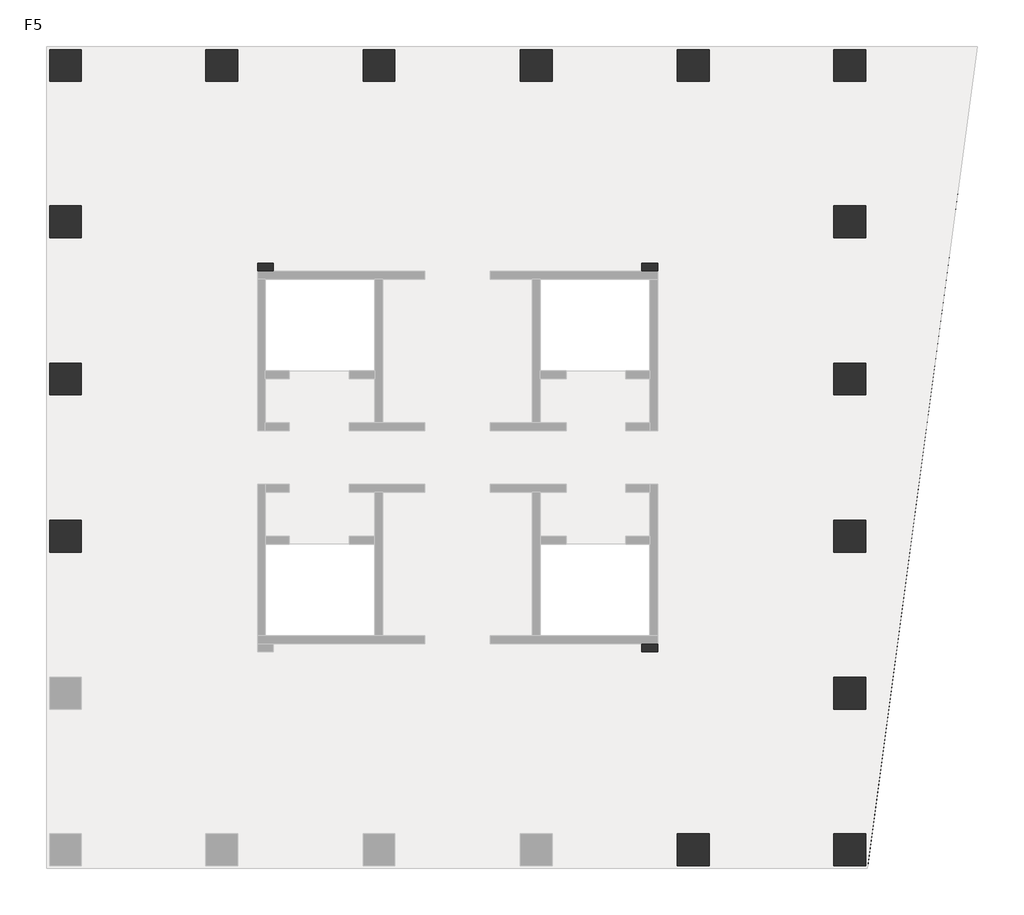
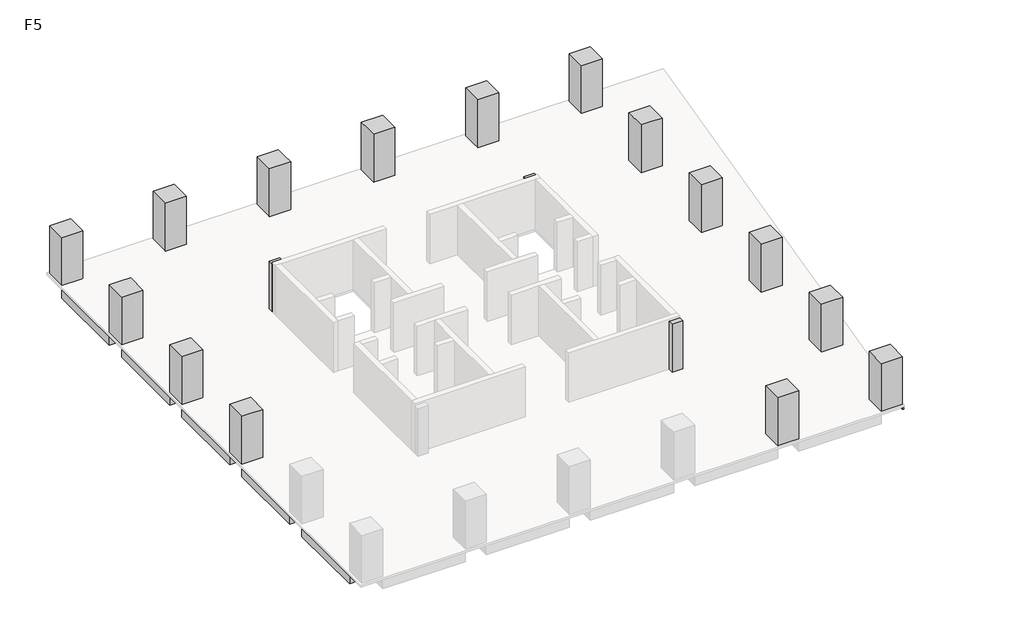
# One storey, part 2 of 2: 21 beams, 18 columns.
"""IFC4 building model written with IfcOpenShell, lengths in millimetres."""

from ifc_helpers import new_model, si_unit, frame, origin, place, context, project, spatial, polyline, outline, extrude, faceted_brep, element, save

model = new_model("IFC4")

# Units and contexts
model_context = context("Model", 3, world=origin())
ifc_project = project(units=[si_unit("LENGTHUNIT", "METRE", prefix="MILLI")], contexts=[model_context])

# Site, building, storey
site = spatial("IfcSite", under=ifc_project)
building = spatial("IfcBuilding", under=site)
storey = spatial("IfcBuildingStorey", under=building, Name="F5", Elevation=20000.0)

# Beams
placement = place(None, origin())
element("IfcBeam", 1, ObjectType="混凝土 - 矩形梁 : KL(5)-800x1000", at=placement, inside=storey, context=model_context, shape_type="SweptSolid", body=[
    extrude(outline(polyline([(25327.3257831, 27051.0498658), (25327.3257831, 26251.0498658), (19077.3257831, 26251.0498658), (19077.3257831, 27051.0498658), (25327.3257831, 27051.0498658)])), frame((0.0, 0.0, 19000.0), z_axis=(0.0, 0.0, 1.0), x_axis=(1.0, 0.0, 0.0)), (0.0, 0.0, 1.0), 840.0),
    extrude(outline(polyline([(-12472.6742169, 26251.0498658), (-12472.6742169, 27051.0498658), (-6222.6742169, 27051.0498658), (-6222.6742169, 26251.0498658), (-12472.6742169, 26251.0498658)])), frame((0.0, 0.0, 19000.0), z_axis=(0.0, 0.0, 1.0), x_axis=(1.0, 0.0, 0.0)), (0.0, 0.0, 1.0), 840.0),
    extrude(outline(polyline([(-4622.6742169, 26251.0498658), (-4622.6742169, 27051.0498658), (1677.3257831, 27051.0498658), (1677.3257831, 26251.0498658), (-4622.6742169, 26251.0498658)])), frame((0.0, 0.0, 19000.0), z_axis=(0.0, 0.0, 1.0), x_axis=(1.0, 0.0, 0.0)), (0.0, 0.0, 1.0), 840.0),
    extrude(outline(polyline([(3277.3257831, 26251.0498658), (3277.3257831, 27051.0498658), (9577.3257831, 27051.0498658), (9577.3257831, 26251.0498658), (3277.3257831, 26251.0498658)])), frame((0.0, 0.0, 19000.0), z_axis=(0.0, 0.0, 1.0), x_axis=(1.0, 0.0, 0.0)), (0.0, 0.0, 1.0), 840.0),
    extrude(outline(polyline([(11177.3257831, 26251.0498658), (11177.3257831, 27051.0498658), (17477.3257831, 27051.0498658), (17477.3257831, 26251.0498658), (11177.3257831, 26251.0498658)])), frame((0.0, 0.0, 19000.0), z_axis=(0.0, 0.0, 1.0), x_axis=(1.0, 0.0, 0.0)), (0.0, 0.0, 1.0), 840.0),
])
element("IfcBeam", 2, ObjectType="混凝土 - 矩形梁 : KL(5)-800x1000", at=placement, inside=storey, context=model_context, shape_type="Brep", body=[
    faceted_brep([(26927.3257831, 26251.0498658, 19000.0), (32422.0087099, 26251.0498658, 19000.0), (32422.0087099, 26251.0498658, 19840.0), (32018.4257091, 26251.0498658, 19840.0), (26927.3257831, 26251.0498658, 19840.0), (32422.0087099, 27051.0498658, 19000.0), (26927.3257831, 27051.0498658, 19000.0), (26927.3257831, 27051.0498658, 19840.0), (32422.0087099, 27051.0498658, 19840.0)], [[[0, 1, 2, 3, 4]], [[5, 1, 0, 6]], [[5, 6, 7, 8]], [[1, 5, 8, 2]], [[6, 0, 4, 7]], [[4, 3, 2, 8, 7]]]),
])
element("IfcBeam", 3, ObjectType="混凝土 - 矩形梁 : KL(5)-800x1000", at=placement, inside=storey, context=model_context, shape_type="Brep", body=[
    faceted_brep([(26127.3257831, -6098.9501342, 19000.0), (26127.3257831, -12348.9501342, 19000.0), (26127.3257831, -12348.9501342, 19840.0), (26127.3257831, -6098.9501342, 19840.0), (26927.3257831, -12348.9501342, 19000.0), (26927.3257831, -6098.9501342, 19000.0), (26927.3257831, -6098.9501342, 19840.0), (26927.3257831, -11700.7859463, 19840.0), (26927.3257831, -12348.9501342, 19840.0)], [[[0, 1, 2, 3]], [[4, 1, 0, 5]], [[4, 5, 6, 7, 8]], [[1, 4, 8, 2]], [[5, 0, 3, 6]], [[3, 2, 8, 7, 6]]]),
    faceted_brep([(26927.3257831, 25451.0498658, 19000.0), (26127.3257831, 25451.0498658, 19000.0), (26127.3257831, 25451.0498658, 19840.0), (26927.3257831, 25451.0498658, 19840.0), (26127.3257831, 19201.0498658, 19000.0), (26927.3257831, 19201.0498658, 19000.0), (26927.3257831, 19201.0498658, 19840.0), (26127.3257831, 19201.0498658, 19840.0)], [[[0, 1, 2, 3]], [[4, 5, 6, 7]], [[1, 4, 7, 2]], [[1, 0, 5, 4]], [[5, 0, 3, 6]], [[3, 2, 7, 6]]]),
    faceted_brep([(26927.3257831, 17601.0498658, 19000.0), (26127.3257831, 17601.0498658, 19000.0), (26127.3257831, 17601.0498658, 19840.0), (26927.3257831, 17601.0498658, 19840.0), (26127.3257831, 11301.0498658, 19000.0), (26927.3257831, 11301.0498658, 19000.0), (26927.3257831, 11301.0498658, 19840.0), (26127.3257831, 11301.0498658, 19840.0)], [[[0, 1, 2, 3]], [[4, 5, 6, 7]], [[1, 4, 7, 2]], [[1, 0, 5, 4]], [[5, 0, 3, 6]], [[3, 2, 7, 6]]]),
    faceted_brep([(26927.3257831, 9701.0498658, 19000.0), (26127.3257831, 9701.0498658, 19000.0), (26127.3257831, 9701.0498658, 19840.0), (26927.3257831, 9701.0498658, 19840.0), (26127.3257831, 3401.0498658, 19000.0), (26927.3257831, 3401.0498658, 19000.0), (26927.3257831, 3401.0498658, 19840.0), (26127.3257831, 3401.0498658, 19840.0)], [[[0, 1, 2, 3]], [[4, 5, 6, 7]], [[1, 4, 7, 2]], [[1, 0, 5, 4]], [[5, 0, 3, 6]], [[3, 2, 7, 6]]]),
    faceted_brep([(26927.3257831, 1801.0498658, 19000.0), (26127.3257831, 1801.0498658, 19000.0), (26127.3257831, 1801.0498658, 19840.0), (26927.3257831, 1801.0498658, 19840.0), (26127.3257831, -4498.9501342, 19000.0), (26927.3257831, -4498.9501342, 19000.0), (26927.3257831, -4498.9501342, 19840.0), (26127.3257831, -4498.9501342, 19840.0)], [[[0, 1, 2, 3]], [[4, 5, 6, 7]], [[1, 4, 7, 2]], [[1, 0, 5, 4]], [[5, 0, 3, 6]], [[3, 2, 7, 6]]]),
])
element("IfcBeam", 4, ObjectType="混凝土 - 矩形梁 : KL(5)-800x1000", at=placement, inside=storey, context=model_context, shape_type="SweptSolid", body=[
    extrude(outline(polyline([(-14072.6742169, 25451.0498658), (-13272.6742169, 25451.0498658), (-13272.6742169, 19201.0498658), (-14072.6742169, 19201.0498658), (-14072.6742169, 25451.0498658)])), frame((0.0, 0.0, 19000.0), z_axis=(0.0, 0.0, 1.0), x_axis=(1.0, 0.0, 0.0)), (0.0, 0.0, 1.0), 840.0),
    extrude(outline(polyline([(-13272.6742169, -12348.9501342), (-14072.6742169, -12348.9501342), (-14072.6742169, -6098.9501342), (-13272.6742169, -6098.9501342), (-13272.6742169, -12348.9501342)])), frame((0.0, 0.0, 19000.0), z_axis=(0.0, 0.0, 1.0), x_axis=(1.0, 0.0, 0.0)), (0.0, 0.0, 1.0), 840.0),
    extrude(outline(polyline([(-14072.6742169, 17601.0498658), (-13272.6742169, 17601.0498658), (-13272.6742169, 11301.0498658), (-14072.6742169, 11301.0498658), (-14072.6742169, 17601.0498658)])), frame((0.0, 0.0, 19000.0), z_axis=(0.0, 0.0, 1.0), x_axis=(1.0, 0.0, 0.0)), (0.0, 0.0, 1.0), 840.0),
    extrude(outline(polyline([(-14072.6742169, 9701.0498658), (-13272.6742169, 9701.0498658), (-13272.6742169, 3401.0498658), (-14072.6742169, 3401.0498658), (-14072.6742169, 9701.0498658)])), frame((0.0, 0.0, 19000.0), z_axis=(0.0, 0.0, 1.0), x_axis=(1.0, 0.0, 0.0)), (0.0, 0.0, 1.0), 840.0),
    extrude(outline(polyline([(-14072.6742169, 1801.0498658), (-13272.6742169, 1801.0498658), (-13272.6742169, -4498.9501342), (-14072.6742169, -4498.9501342), (-14072.6742169, 1801.0498658)])), frame((0.0, 0.0, 19000.0), z_axis=(0.0, 0.0, 1.0), x_axis=(1.0, 0.0, 0.0)), (0.0, 0.0, 1.0), 840.0),
])
element("IfcBeam", 5, ObjectType="混凝土 - 矩形梁 : L1-800x500", at=placement, inside=storey, context=model_context, shape_type="SweptSolid", body=[
    extrude(outline(polyline([(-12472.6742169, 2201.0498658), (-12472.6742169, 3001.0498658), (-3622.6742169, 3001.0498658), (-3622.6742169, 2201.0498658), (-12472.6742169, 2201.0498658)])), frame((0.0, 0.0, 19500.0), z_axis=(0.0, 0.0, 1.0), x_axis=(1.0, 0.0, 0.0)), (0.0, 0.0, 1.0), 340.0),
])
element("IfcBeam", 6, ObjectType="混凝土 - 矩形梁 : L1-800x500", at=placement, inside=storey, context=model_context, shape_type="SweptSolid", body=[
    extrude(outline(polyline([(-12472.6742169, 10101.0498658), (-12472.6742169, 10901.0498658), (-3622.6742169, 10901.0498658), (-3622.6742169, 10101.0498658), (-12472.6742169, 10101.0498658)])), frame((0.0, 0.0, 19500.0), z_axis=(0.0, 0.0, 1.0), x_axis=(1.0, 0.0, 0.0)), (0.0, 0.0, 1.0), 340.0),
])
element("IfcBeam", 7, ObjectType="混凝土 - 矩形梁 : L1-800x500", at=placement, inside=storey, context=model_context, shape_type="Brep", body=[
    faceted_brep([(-12472.6742169, 17789.85471, 19500.0), (-3622.6742169, 15588.3621727, 19500.0), (-3622.6742169, 15588.3621727, 19840.0), (-12472.6742169, 17789.85471, 19840.0), (-3173.6696907, 16301.0498658, 19500.0), (-3622.6742169, 16301.0498658, 19500.0), (-3622.6742169, 15901.0498658, 19500.0), (-12472.6742169, 18614.2350714, 19500.0), (-3746.9473979, 16443.6562607, 19500.0), (-12472.6742169, 18614.2350714, 19840.0), (-3746.9473979, 16443.6562607, 19840.0), (-3173.6696907, 16301.0498658, 19840.0), (-3622.6742169, 16301.0498658, 19840.0)], [[[0, 1, 2, 3]], [[4, 5, 6, 1, 0, 7, 8]], [[4, 8, 7, 9, 10, 11]], [[6, 5, 12, 2, 1]], [[5, 4, 11, 12]], [[7, 0, 3, 9]], [[3, 2, 12, 11, 10, 9]]]),
])
element("IfcBeam", 8, ObjectType="混凝土 - 矩形梁 : L1-800x500", at=placement, inside=storey, context=model_context, shape_type="SweptSolid", body=[
    extrude(outline(polyline([(-3173.6696907, 16301.0498658), (-3746.9473979, 16443.6562607), (-5661.5624638, 25451.0498658), (-4843.6893517, 25451.0498658), (-2898.7618154, 16301.0498658), (-3173.6696907, 16301.0498658)])), frame((0.0, 0.0, 19500.0), z_axis=(0.0, 0.0, 1.0), x_axis=(1.0, 0.0, 0.0)), (0.0, 0.0, 1.0), 340.0),
])
element("IfcBeam", 9, ObjectType="混凝土 - 矩形梁 : L1-800x500", at=placement, inside=storey, context=model_context, shape_type="SweptSolid", body=[
    extrude(outline(polyline([(2077.3257831, 25451.0498658), (2877.3257831, 25451.0498658), (2877.3257831, 15901.0498658), (2077.3257831, 15901.0498658), (2077.3257831, 25451.0498658)])), frame((0.0, 0.0, 19500.0), z_axis=(0.0, 0.0, 1.0), x_axis=(1.0, 0.0, 0.0)), (0.0, 0.0, 1.0), 340.0),
])
element("IfcBeam", 10, ObjectType="混凝土 - 矩形梁 : L1-800x500", at=placement, inside=storey, context=model_context, shape_type="SweptSolid", body=[
    extrude(outline(polyline([(9977.3257831, 25451.0498658), (10777.3257831, 25451.0498658), (10777.3257831, 15901.0498658), (9977.3257831, 15901.0498658), (9977.3257831, 25451.0498658)])), frame((0.0, 0.0, 19500.0), z_axis=(0.0, 0.0, 1.0), x_axis=(1.0, 0.0, 0.0)), (0.0, 0.0, 1.0), 340.0),
])
element("IfcBeam", 11, ObjectType="混凝土 - 矩形梁 : L1-800x500", at=placement, inside=storey, context=model_context, shape_type="Brep", body=[
    faceted_brep([(25327.3257831, -4687.7549784, 19500.0), (16477.3257831, -2486.2624411, 19500.0), (16477.3257831, -2486.2624411, 19840.0), (25327.3257831, -4687.7549784, 19840.0), (16028.3212569, -3198.9501342, 19500.0), (16477.3257831, -3198.9501342, 19500.0), (16477.3257831, -2798.9501342, 19500.0), (25327.3257831, -5512.1353397, 19500.0), (16601.5989641, -3341.556529, 19500.0), (25327.3257831, -5512.1353397, 19840.0), (16601.5989641, -3341.556529, 19840.0), (16028.3212569, -3198.9501342, 19840.0), (16477.3257831, -3198.9501342, 19840.0)], [[[0, 1, 2, 3]], [[4, 5, 6, 1, 0, 7, 8]], [[4, 8, 7, 9, 10, 11]], [[6, 5, 12, 2, 1]], [[5, 4, 11, 12]], [[7, 0, 3, 9]], [[3, 2, 12, 11, 10, 9]]]),
])
element("IfcBeam", 12, ObjectType="混凝土 - 矩形梁 : L1-800x500", at=placement, inside=storey, context=model_context, shape_type="SweptSolid", body=[
    extrude(outline(polyline([(16028.3212569, -3198.9501342), (16601.5989641, -3341.556529), (18516.21403, -12348.9501342), (17698.3409179, -12348.9501342), (15753.4133817, -3198.9501342), (16028.3212569, -3198.9501342)])), frame((0.0, 0.0, 19500.0), z_axis=(0.0, 0.0, 1.0), x_axis=(1.0, 0.0, 0.0)), (0.0, 0.0, 1.0), 340.0),
])
element("IfcBeam", 13, ObjectType="混凝土 - 矩形梁 : L1-800x500", at=placement, inside=storey, context=model_context, shape_type="SweptSolid", body=[
    extrude(outline(polyline([(25327.3257831, 3001.0498658), (25327.3257831, 2201.0498658), (16477.3257831, 2201.0498658), (16477.3257831, 3001.0498658), (25327.3257831, 3001.0498658)])), frame((0.0, 0.0, 19500.0), z_axis=(0.0, 0.0, 1.0), x_axis=(1.0, 0.0, 0.0)), (0.0, 0.0, 1.0), 340.0),
])
element("IfcBeam", 14, ObjectType="混凝土 - 矩形梁 : L1-800x500", at=placement, inside=storey, context=model_context, shape_type="SweptSolid", body=[
    extrude(outline(polyline([(25327.3257831, 10901.0498658), (25327.3257831, 10101.0498658), (16477.3257831, 10101.0498658), (16477.3257831, 10901.0498658), (25327.3257831, 10901.0498658)])), frame((0.0, 0.0, 19500.0), z_axis=(0.0, 0.0, 1.0), x_axis=(1.0, 0.0, 0.0)), (0.0, 0.0, 1.0), 340.0),
])
element("IfcBeam", 15, ObjectType="混凝土 - 矩形梁 : L1-800x500", at=placement, inside=storey, context=model_context, shape_type="Brep", body=[
    faceted_brep([(25327.3257831, 18610.6867312, 19500.0), (16590.8993897, 16393.3196262, 19500.0), (16227.3565337, 16301.0498658, 19500.0), (16227.3565337, 16301.0498658, 19840.0), (16590.8993897, 16393.3196262, 19840.0), (25327.3257831, 18610.6867312, 19840.0), (16477.3257831, 16301.0498658, 19500.0), (25327.3257831, 17785.3216299, 19500.0), (16477.3257831, 15539.1287365, 19500.0), (16477.3257831, 15901.0498658, 19500.0), (25327.3257831, 17785.3216299, 19840.0), (16477.3257831, 15539.1287365, 19840.0), (16477.3257831, 16301.0498658, 19840.0)], [[[0, 1, 2, 3, 4, 5]], [[6, 2, 1, 0, 7, 8, 9]], [[8, 7, 10, 11]], [[9, 8, 11, 12, 6]], [[2, 6, 12, 3]], [[7, 0, 5, 10]], [[5, 4, 3, 12, 11, 10]]]),
])
element("IfcBeam", 16, ObjectType="混凝土 - 矩形梁 : L1-800x500", at=placement, inside=storey, context=model_context, shape_type="SweptSolid", body=[
    extrude(outline(polyline([(16590.8993897, 16393.3196262), (16227.3565337, 16301.0498658), (15753.4133817, 16301.0498658), (17698.3409179, 25451.0498658), (18516.21403, 25451.0498658), (16590.8993897, 16393.3196262)])), frame((0.0, 0.0, 19500.0), z_axis=(0.0, 0.0, 1.0), x_axis=(1.0, 0.0, 0.0)), (0.0, 0.0, 1.0), 340.0),
])
element("IfcBeam", 17, ObjectType="混凝土 - 矩形梁 : L2-400x400", at=placement, inside=storey, context=model_context, shape_type="Brep", body=[
    faceted_brep([(32422.0087099, 26251.0498658, 19600.0), (27029.3257831, -13948.9501342, 19600.0), (26927.3257831, -13935.2672073, 19600.0), (26927.3257831, -11700.7859463, 19600.0), (27759.2793677, -5498.9501342, 19600.0), (27812.9379042, -5098.9501342, 19600.0), (28819.0354652, 2401.0498658, 19600.0), (28872.6940018, 2801.0498658, 19600.0), (29878.7915628, 10301.0498658, 19600.0), (29932.4500994, 10701.0498658, 19600.0), (30938.5476603, 18201.0498658, 19600.0), (30992.2061969, 18601.0498658, 19600.0), (32018.4257091, 26251.0498658, 19600.0), (32422.0087099, 26251.0498658, 19840.0), (27029.3257831, -13948.9501342, 19840.0), (32018.4257091, 26251.0498658, 19840.0), (26927.3257831, -13935.2672073, 19840.0), (26927.3257831, -12348.9501342, 19840.0), (26927.3257831, -11700.7859463, 19840.0), (27759.2793677, -5498.9501342, 19840.0), (27812.9379042, -5098.9501342, 19840.0), (28819.0354652, 2401.0498658, 19840.0), (28872.6940018, 2801.0498658, 19840.0), (29878.7915628, 10301.0498658, 19840.0), (29932.4500994, 10701.0498658, 19840.0), (30938.5476603, 18201.0498658, 19840.0), (30992.2061969, 18601.0498658, 19840.0)], [[[0, 1, 2, 3, 4, 5, 6, 7, 8, 9, 10, 11, 12]], [[1, 0, 13, 14]], [[0, 12, 15, 13]], [[3, 2, 16, 17, 18]], [[12, 11, 10, 9, 8, 7, 6, 5, 4, 3, 18, 19, 20, 21, 22, 23, 24, 25, 26, 15]], [[2, 1, 14, 16]], [[14, 13, 15, 26, 25, 24, 23, 22, 21, 20, 19, 18, 17, 16]]]),
])
element("IfcBeam", 18, ObjectType="混凝土 - 矩形梁 : L2-400x400", at=placement, inside=storey, context=model_context, shape_type="SweptSolid", body=[
    extrude(outline(polyline([(30938.5476603, 18201.0498658), (26927.3257831, 18201.0498658), (26927.3257831, 18601.0498658), (30992.2061969, 18601.0498658), (30938.5476603, 18201.0498658)])), frame((0.0, 0.0, 19600.0), z_axis=(0.0, 0.0, 1.0), x_axis=(1.0, 0.0, 0.0)), (0.0, 0.0, 1.0), 240.0),
])
element("IfcBeam", 19, ObjectType="混凝土 - 矩形梁 : L2-400x400", at=placement, inside=storey, context=model_context, shape_type="SweptSolid", body=[
    extrude(outline(polyline([(29878.7915628, 10301.0498658), (26927.3257831, 10301.0498658), (26927.3257831, 10701.0498658), (29932.4500994, 10701.0498658), (29878.7915628, 10301.0498658)])), frame((0.0, 0.0, 19600.0), z_axis=(0.0, 0.0, 1.0), x_axis=(1.0, 0.0, 0.0)), (0.0, 0.0, 1.0), 240.0),
])
element("IfcBeam", 20, ObjectType="混凝土 - 矩形梁 : L2-400x400", at=placement, inside=storey, context=model_context, shape_type="SweptSolid", body=[
    extrude(outline(polyline([(28819.0354652, 2401.0498658), (26927.3257831, 2401.0498658), (26927.3257831, 2801.0498658), (28872.6940018, 2801.0498658), (28819.0354652, 2401.0498658)])), frame((0.0, 0.0, 19600.0), z_axis=(0.0, 0.0, 1.0), x_axis=(1.0, 0.0, 0.0)), (0.0, 0.0, 1.0), 240.0),
])
element("IfcBeam", 21, ObjectType="混凝土 - 矩形梁 : L2-400x400", at=placement, inside=storey, context=model_context, shape_type="SweptSolid", body=[
    extrude(outline(polyline([(27759.2793677, -5498.9501342), (26927.3257831, -5498.9501342), (26927.3257831, -5098.9501342), (27812.9379042, -5098.9501342), (27759.2793677, -5498.9501342)])), frame((0.0, 0.0, 19600.0), z_axis=(0.0, 0.0, 1.0), x_axis=(1.0, 0.0, 0.0)), (0.0, 0.0, 1.0), 240.0),
])

# Columns
element("IfcColumn", 22, ObjectType="混凝土 - 矩形 - 柱 : Z1-1600x1600", at=placement, inside=storey, context=model_context, shape_type="SweptSolid", body=[
    extrude(outline(polyline([(-12472.6742169, 27051.0498658), (-12472.6742169, 25451.0498658), (-14072.6742169, 25451.0498658), (-14072.6742169, 27051.0498658), (-12472.6742169, 27051.0498658)])), frame((0.0, 0.0, 20000.0), z_axis=(0.0, 0.0, 1.0), x_axis=(1.0, 0.0, 0.0)), (0.0, 0.0, 1.0), 3840.0),
])
element("IfcColumn", 23, ObjectType="混凝土 - 矩形 - 柱 : Z1-1600x1600", at=placement, inside=storey, context=model_context, shape_type="Brep", body=[
    faceted_brep([(-4622.6742169, 27051.0498658, 20000.0), (-4622.6742169, 25451.0498658, 20000.0), (-6222.6742169, 25451.0498658, 20000.0), (-6222.6742169, 27051.0498658, 20000.0), (-4622.6742169, 27051.0498658, 23000.0), (-4622.6742169, 27051.0498658, 23840.0), (-4622.6742169, 26251.0498658, 23840.0), (-4622.6742169, 25451.0498658, 23840.0), (-6222.6742169, 25451.0498658, 23840.0), (-6222.6742169, 26251.0498658, 23840.0), (-6222.6742169, 27051.0498658, 23840.0), (-6222.6742169, 27051.0498658, 23000.0)], [[[0, 1, 2, 3]], [[1, 0, 4, 5, 6, 7]], [[2, 1, 7, 8]], [[3, 2, 8, 9, 10, 11]], [[0, 3, 11, 10, 5, 4]], [[7, 6, 5, 10, 9, 8]]]),
])
element("IfcColumn", 24, ObjectType="混凝土 - 矩形 - 柱 : Z1-1600x1600", at=placement, inside=storey, context=model_context, shape_type="Brep", body=[
    faceted_brep([(-12472.6742169, 19201.0498658, 20000.0), (-12472.6742169, 17601.0498658, 20000.0), (-14072.6742169, 17601.0498658, 20000.0), (-14072.6742169, 19201.0498658, 20000.0), (-12472.6742169, 19201.0498658, 23840.0), (-12472.6742169, 17601.0498658, 23840.0), (-13272.6742169, 17601.0498658, 23840.0), (-14072.6742169, 17601.0498658, 23840.0), (-14072.6742169, 17601.0498658, 23000.0), (-14072.6742169, 19201.0498658, 23840.0), (-14072.6742169, 19201.0498658, 23000.0), (-13272.6742169, 19201.0498658, 23840.0)], [[[0, 1, 2, 3]], [[1, 0, 4, 5]], [[2, 1, 5, 6, 7, 8]], [[3, 2, 8, 7, 9, 10]], [[0, 3, 10, 9, 11, 4]], [[5, 4, 11, 9, 7, 6]]]),
])
element("IfcColumn", 25, ObjectType="混凝土 - 矩形 - 柱 : Z1-1600x1600", at=placement, inside=storey, context=model_context, shape_type="Brep", body=[
    faceted_brep([(-12472.6742169, 11301.0498658, 20000.0), (-12472.6742169, 9701.0498658, 20000.0), (-14072.6742169, 9701.0498658, 20000.0), (-14072.6742169, 11301.0498658, 20000.0), (-12472.6742169, 11301.0498658, 23840.0), (-12472.6742169, 9701.0498658, 23840.0), (-13272.6742169, 9701.0498658, 23840.0), (-14072.6742169, 9701.0498658, 23840.0), (-14072.6742169, 9701.0498658, 23000.0), (-14072.6742169, 11301.0498658, 23840.0), (-14072.6742169, 11301.0498658, 23000.0), (-13272.6742169, 11301.0498658, 23840.0)], [[[0, 1, 2, 3]], [[1, 0, 4, 5]], [[2, 1, 5, 6, 7, 8]], [[3, 2, 8, 7, 9, 10]], [[0, 3, 10, 9, 11, 4]], [[5, 4, 11, 9, 7, 6]]]),
])
element("IfcColumn", 26, ObjectType="混凝土 - 矩形 - 柱 : Z1-1600x1600", at=placement, inside=storey, context=model_context, shape_type="Brep", body=[
    faceted_brep([(-12472.6742169, 3401.0498658, 20000.0), (-12472.6742169, 1801.0498658, 20000.0), (-14072.6742169, 1801.0498658, 20000.0), (-14072.6742169, 3401.0498658, 20000.0), (-12472.6742169, 3401.0498658, 23840.0), (-12472.6742169, 1801.0498658, 23840.0), (-13272.6742169, 1801.0498658, 23840.0), (-14072.6742169, 1801.0498658, 23840.0), (-14072.6742169, 1801.0498658, 23000.0), (-14072.6742169, 3401.0498658, 23840.0), (-14072.6742169, 3401.0498658, 23000.0), (-13272.6742169, 3401.0498658, 23840.0)], [[[0, 1, 2, 3]], [[1, 0, 4, 5]], [[2, 1, 5, 6, 7, 8]], [[3, 2, 8, 7, 9, 10]], [[0, 3, 10, 9, 11, 4]], [[5, 4, 11, 9, 7, 6]]]),
])
element("IfcColumn", 27, ObjectType="混凝土 - 矩形 - 柱 : Z1-1600x1600", at=placement, inside=storey, context=model_context, shape_type="SweptSolid", body=[
    extrude(outline(polyline([(25327.3257831, 27051.0498658), (26927.3257831, 27051.0498658), (26927.3257831, 25451.0498658), (25327.3257831, 25451.0498658), (25327.3257831, 27051.0498658)])), frame((0.0, 0.0, 20000.0), z_axis=(0.0, 0.0, 1.0), x_axis=(1.0, 0.0, 0.0)), (0.0, 0.0, 1.0), 3840.0),
])
element("IfcColumn", 28, ObjectType="混凝土 - 矩形 - 柱 : Z1-1600x1600", at=placement, inside=storey, context=model_context, shape_type="Brep", body=[
    faceted_brep([(25327.3257831, 19201.0498658, 20000.0), (26927.3257831, 19201.0498658, 20000.0), (26927.3257831, 17601.0498658, 20000.0), (25327.3257831, 17601.0498658, 20000.0), (25327.3257831, 17601.0498658, 23840.0), (25327.3257831, 19201.0498658, 23840.0), (26927.3257831, 17601.0498658, 23000.0), (26927.3257831, 17601.0498658, 23840.0), (26127.3257831, 17601.0498658, 23840.0), (26927.3257831, 19201.0498658, 23000.0), (26927.3257831, 19201.0498658, 23840.0), (26127.3257831, 19201.0498658, 23840.0)], [[[0, 1, 2, 3]], [[0, 3, 4, 5]], [[3, 2, 6, 7, 8, 4]], [[2, 1, 9, 10, 7, 6]], [[1, 0, 5, 11, 10, 9]], [[5, 4, 8, 7, 10, 11]]]),
])
element("IfcColumn", 29, ObjectType="混凝土 - 矩形 - 柱 : Z1-1600x1600", at=placement, inside=storey, context=model_context, shape_type="Brep", body=[
    faceted_brep([(25327.3257831, 11301.0498658, 20000.0), (26927.3257831, 11301.0498658, 20000.0), (26927.3257831, 9701.0498658, 20000.0), (25327.3257831, 9701.0498658, 20000.0), (25327.3257831, 9701.0498658, 23840.0), (25327.3257831, 11301.0498658, 23840.0), (26927.3257831, 9701.0498658, 23000.0), (26927.3257831, 9701.0498658, 23840.0), (26127.3257831, 9701.0498658, 23840.0), (26927.3257831, 11301.0498658, 23000.0), (26927.3257831, 11301.0498658, 23840.0), (26127.3257831, 11301.0498658, 23840.0)], [[[0, 1, 2, 3]], [[0, 3, 4, 5]], [[3, 2, 6, 7, 8, 4]], [[2, 1, 9, 10, 7, 6]], [[1, 0, 5, 11, 10, 9]], [[5, 4, 8, 7, 10, 11]]]),
])
element("IfcColumn", 30, ObjectType="混凝土 - 矩形 - 柱 : Z1-1600x1600", at=placement, inside=storey, context=model_context, shape_type="Brep", body=[
    faceted_brep([(25327.3257831, 3401.0498658, 20000.0), (26927.3257831, 3401.0498658, 20000.0), (26927.3257831, 1801.0498658, 20000.0), (25327.3257831, 1801.0498658, 20000.0), (25327.3257831, 1801.0498658, 23840.0), (25327.3257831, 3401.0498658, 23840.0), (26927.3257831, 1801.0498658, 23000.0), (26927.3257831, 1801.0498658, 23840.0), (26127.3257831, 1801.0498658, 23840.0), (26927.3257831, 3401.0498658, 23000.0), (26927.3257831, 3401.0498658, 23840.0), (26127.3257831, 3401.0498658, 23840.0)], [[[0, 1, 2, 3]], [[0, 3, 4, 5]], [[3, 2, 6, 7, 8, 4]], [[2, 1, 9, 10, 7, 6]], [[1, 0, 5, 11, 10, 9]], [[5, 4, 8, 7, 10, 11]]]),
])
element("IfcColumn", 31, ObjectType="混凝土 - 矩形 - 柱 : Z1-1600x1600", at=placement, inside=storey, context=model_context, shape_type="Brep", body=[
    faceted_brep([(25327.3257831, -4498.9501342, 20000.0), (26927.3257831, -4498.9501342, 20000.0), (26927.3257831, -6098.9501342, 20000.0), (25327.3257831, -6098.9501342, 20000.0), (25327.3257831, -6098.9501342, 23840.0), (25327.3257831, -4498.9501342, 23840.0), (26927.3257831, -6098.9501342, 23000.0), (26927.3257831, -6098.9501342, 23840.0), (26127.3257831, -6098.9501342, 23840.0), (26927.3257831, -4498.9501342, 23000.0), (26927.3257831, -4498.9501342, 23840.0), (26127.3257831, -4498.9501342, 23840.0)], [[[0, 1, 2, 3]], [[0, 3, 4, 5]], [[3, 2, 6, 7, 8, 4]], [[2, 1, 9, 10, 7, 6]], [[1, 0, 5, 11, 10, 9]], [[5, 4, 8, 7, 10, 11]]]),
])
element("IfcColumn", 32, ObjectType="混凝土 - 矩形 - 柱 : Z1-1600x1600", at=placement, inside=storey, context=model_context, shape_type="SweptSolid", body=[
    extrude(outline(polyline([(25327.3257831, -12348.9501342), (26927.3257831, -12348.9501342), (26927.3257831, -13948.9501342), (25327.3257831, -13948.9501342), (25327.3257831, -12348.9501342)])), frame((0.0, 0.0, 20000.0), z_axis=(0.0, 0.0, 1.0), x_axis=(1.0, 0.0, 0.0)), (0.0, 0.0, 1.0), 3840.0),
])
element("IfcColumn", 33, ObjectType="混凝土 - 矩形 - 柱 : Z1-1600x1600", at=placement, inside=storey, context=model_context, shape_type="Brep", body=[
    faceted_brep([(3277.3257831, 27051.0498658, 20000.0), (3277.3257831, 25451.0498658, 20000.0), (1677.3257831, 25451.0498658, 20000.0), (1677.3257831, 27051.0498658, 20000.0), (3277.3257831, 27051.0498658, 23000.0), (3277.3257831, 27051.0498658, 23840.0), (3277.3257831, 26251.0498658, 23840.0), (3277.3257831, 25451.0498658, 23840.0), (1677.3257831, 25451.0498658, 23840.0), (1677.3257831, 26251.0498658, 23840.0), (1677.3257831, 27051.0498658, 23840.0), (1677.3257831, 27051.0498658, 23000.0)], [[[0, 1, 2, 3]], [[1, 0, 4, 5, 6, 7]], [[2, 1, 7, 8]], [[3, 2, 8, 9, 10, 11]], [[0, 3, 11, 10, 5, 4]], [[7, 6, 5, 10, 9, 8]]]),
])
element("IfcColumn", 34, ObjectType="混凝土 - 矩形 - 柱 : Z1-1600x1600", at=placement, inside=storey, context=model_context, shape_type="Brep", body=[
    faceted_brep([(11177.3257831, 27051.0498658, 20000.0), (11177.3257831, 25451.0498658, 20000.0), (9577.3257831, 25451.0498658, 20000.0), (9577.3257831, 27051.0498658, 20000.0), (11177.3257831, 27051.0498658, 23000.0), (11177.3257831, 27051.0498658, 23840.0), (11177.3257831, 26251.0498658, 23840.0), (11177.3257831, 25451.0498658, 23840.0), (9577.3257831, 25451.0498658, 23840.0), (9577.3257831, 26251.0498658, 23840.0), (9577.3257831, 27051.0498658, 23840.0), (9577.3257831, 27051.0498658, 23000.0)], [[[0, 1, 2, 3]], [[1, 0, 4, 5, 6, 7]], [[2, 1, 7, 8]], [[3, 2, 8, 9, 10, 11]], [[0, 3, 11, 10, 5, 4]], [[7, 6, 5, 10, 9, 8]]]),
])
element("IfcColumn", 35, ObjectType="混凝土 - 矩形 - 柱 : Z1-1600x1600", at=placement, inside=storey, context=model_context, shape_type="Brep", body=[
    faceted_brep([(19077.3257831, 27051.0498658, 20000.0), (19077.3257831, 25451.0498658, 20000.0), (17477.3257831, 25451.0498658, 20000.0), (17477.3257831, 27051.0498658, 20000.0), (19077.3257831, 27051.0498658, 23000.0), (19077.3257831, 27051.0498658, 23840.0), (19077.3257831, 26251.0498658, 23840.0), (19077.3257831, 25451.0498658, 23840.0), (17477.3257831, 25451.0498658, 23840.0), (17477.3257831, 26251.0498658, 23840.0), (17477.3257831, 27051.0498658, 23840.0), (17477.3257831, 27051.0498658, 23000.0)], [[[0, 1, 2, 3]], [[1, 0, 4, 5, 6, 7]], [[2, 1, 7, 8]], [[3, 2, 8, 9, 10, 11]], [[0, 3, 11, 10, 5, 4]], [[7, 6, 5, 10, 9, 8]]]),
])
element("IfcColumn", 36, ObjectType="混凝土 - 矩形 - 柱 : Z1-1600x1600", at=placement, inside=storey, context=model_context, shape_type="Brep", body=[
    faceted_brep([(19077.3257831, -12348.9501342, 20000.0), (19077.3257831, -13948.9501342, 20000.0), (17477.3257831, -13948.9501342, 20000.0), (17477.3257831, -12348.9501342, 20000.0), (19077.3257831, -12348.9501342, 23840.0), (19077.3257831, -13148.9501342, 23840.0), (19077.3257831, -13948.9501342, 23840.0), (19077.3257831, -13948.9501342, 23000.0), (17477.3257831, -13948.9501342, 23840.0), (17477.3257831, -13948.9501342, 23000.0), (17477.3257831, -13148.9501342, 23840.0), (17477.3257831, -12348.9501342, 23840.0)], [[[0, 1, 2, 3]], [[1, 0, 4, 5, 6, 7]], [[2, 1, 7, 6, 8, 9]], [[3, 2, 9, 8, 10, 11]], [[0, 3, 11, 4]], [[6, 5, 4, 11, 10, 8]]]),
])
element("IfcColumn", 37, ObjectType="混凝土 - 矩形 - 柱 : Z2-800x800", at=placement, inside=storey, context=model_context, shape_type="SweptSolid", body=[
    extrude(outline(polyline([(-3622.6742169, 16301.0498658), (-2822.6742169, 16301.0498658), (-2822.6742169, 15901.0498658), (-3622.6742169, 15901.0498658), (-3622.6742169, 16301.0498658)])), frame((0.0, 0.0, 20000.0), z_axis=(0.0, 0.0, 1.0), x_axis=(1.0, 0.0, 0.0)), (0.0, 0.0, 1.0), 3840.0),
])
element("IfcColumn", 38, ObjectType="混凝土 - 矩形 - 柱 : Z2-800x800", at=placement, inside=storey, context=model_context, shape_type="SweptSolid", body=[
    extrude(outline(polyline([(16477.3257831, -3198.9501342), (15677.3257831, -3198.9501342), (15677.3257831, -2798.9501342), (16477.3257831, -2798.9501342), (16477.3257831, -3198.9501342)])), frame((0.0, 0.0, 20000.0), z_axis=(0.0, 0.0, 1.0), x_axis=(1.0, 0.0, 0.0)), (0.0, 0.0, 1.0), 3840.0),
])
element("IfcColumn", 39, ObjectType="混凝土 - 矩形 - 柱 : Z2-800x800", at=placement, inside=storey, context=model_context, shape_type="SweptSolid", body=[
    extrude(outline(polyline([(15677.3257831, 16301.0498658), (16477.3257831, 16301.0498658), (16477.3257831, 15901.0498658), (15677.3257831, 15901.0498658), (15677.3257831, 16301.0498658)])), frame((0.0, 0.0, 20000.0), z_axis=(0.0, 0.0, 1.0), x_axis=(1.0, 0.0, 0.0)), (0.0, 0.0, 1.0), 3840.0),
])

save(model, "model.ifc")
